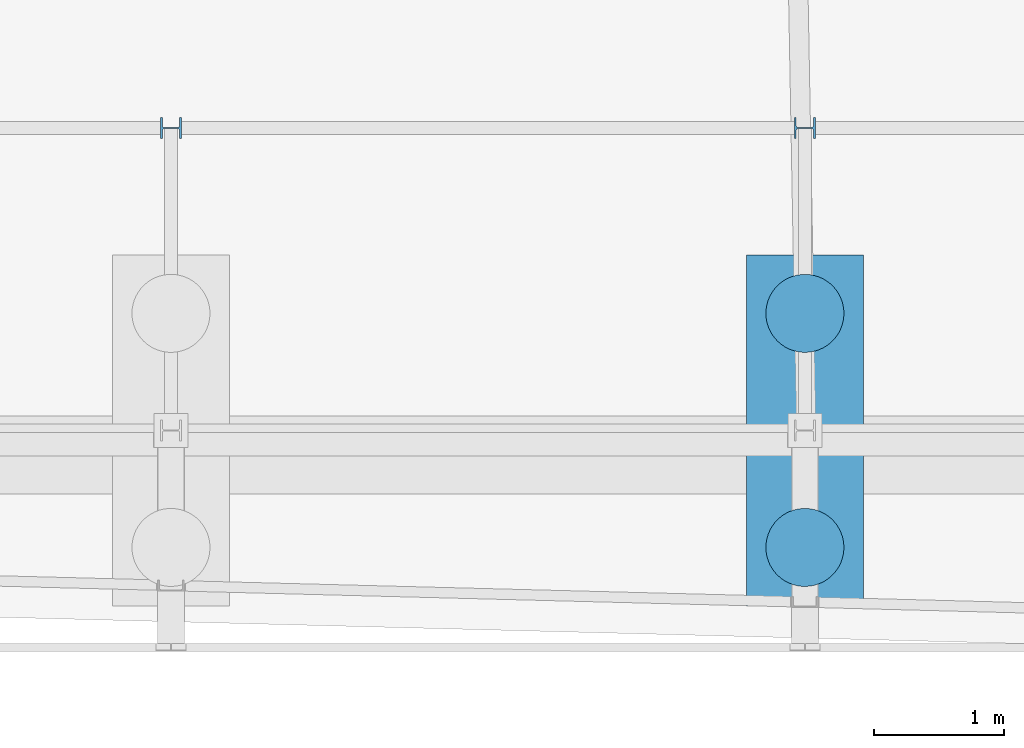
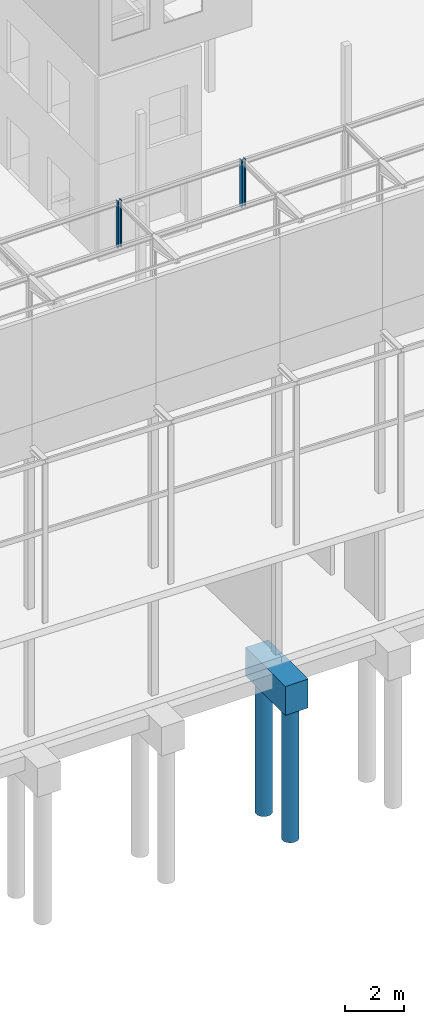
# One storey, part 14 of 82: 5 columns.
"""IFC2X3 building model written with IfcOpenShell, lengths in millimetres."""

import ifcopenshell
import ifcopenshell.guid

model = None  # the IFC model being written
_history = None  # IfcOwnerHistory: only IFC2X3 demands one
_inside = {}  # id of a spatial element -> (the spatial element, [elements in it])
_under = {}  # id of a project, library or spatial element -> (it, [spatial elements below it])
_declared = {}  # id of a project -> (the project, [libraries it declares])
_typed = {}  # id of a type object -> (the type object, [elements of that type])
_made_of = {}  # id of a material, layer set ... -> (it, [elements and type objects made of it])


def new_model(schema):
    """Start an empty IFC model of exactly this schema.

    Asked for "IFC4X3", IfcOpenShell would pick the latest addendum, in which some entities
    have other attributes; the version numbers below select the first issue.
    IFC2X3 requires an IfcOwnerHistory on every rooted entity: one is made here for all.
    """
    global model, _history
    if schema == "IFC4X3":
        model = ifcopenshell.file(schema_version=(4, 3, 0, 0))
    else:
        model = ifcopenshell.file(schema=schema)
    _inside.clear()
    _under.clear()
    _declared.clear()
    _typed.clear()
    _made_of.clear()
    _history = None
    if model.schema == "IFC2X3":
        org = make("IfcOrganization", Name="unknown")
        user = make(
            "IfcPersonAndOrganization",
            ThePerson=make("IfcPerson", FamilyName="unknown"),
            TheOrganization=org,
        )
        app = make(
            "IfcApplication",
            ApplicationDeveloper=org,
            Version="unknown",
            ApplicationFullName="unknown",
            ApplicationIdentifier="unknown",
        )
        _history = make(
            "IfcOwnerHistory",
            OwningUser=user,
            OwningApplication=app,
            ChangeAction="ADDED",
            CreationDate=0,
        )
    return model


def make(cls, **values):
    """One entity of the class cls with the attributes given. An attribute that is None is left unset."""
    return model.create_entity(
        cls, **{name: value for name, value in values.items() if value is not None}
    )


def rooted(cls, **values):
    """An entity with a GlobalId (a new one), such as an element, a storey or a relation."""
    return make(cls, GlobalId=ifcopenshell.guid.new(), OwnerHistory=_history, **values)


def si_unit(unit_type, name, prefix=None):
    """IfcSIUnit, for example si_unit("LENGTHUNIT", "METRE", prefix="MILLI")."""
    return make("IfcSIUnit", UnitType=unit_type, Prefix=prefix, Name=name)


def assignment(units):
    """IfcUnitAssignment: the units of a project."""
    return None if units is None else make("IfcUnitAssignment", Units=units)


def point(xyz):
    """IfcCartesianPoint."""
    return None if xyz is None else make("IfcCartesianPoint", Coordinates=xyz)


def direction(xyz):
    """IfcDirection."""
    return None if xyz is None else make("IfcDirection", DirectionRatios=xyz)


def frame(location, z_axis=None, x_axis=None):
    """IfcAxis2Placement3D, a coordinate frame: its origin and axes. An axis left out is left unset."""
    return make(
        "IfcAxis2Placement3D",
        Location=point(location),
        Axis=direction(z_axis),
        RefDirection=direction(x_axis),
    )


def frame_2d(location, x_axis=None):
    """IfcAxis2Placement2D, a coordinate frame in the plane: its origin and x axis."""
    return make(
        "IfcAxis2Placement2D", Location=point(location), RefDirection=direction(x_axis)
    )


def origin_with_axes():
    """The frame at (0, 0, 0) with the z axis (0, 0, 1) and the x axis (1, 0, 0) written out."""
    return frame((0.0, 0.0, 0.0), z_axis=(0.0, 0.0, 1.0), x_axis=(1.0, 0.0, 0.0))


def place(relative_to, where):
    """IfcLocalPlacement: puts the frame where relative to a parent placement (None: the world)."""
    return make(
        "IfcLocalPlacement", PlacementRelTo=relative_to, RelativePlacement=where
    )


def context(
    kind, dimensions, precision=None, world=None, true_north=None, identifier=None
):
    """IfcGeometricRepresentationContext, for example the 3D "Model" context."""
    return make(
        "IfcGeometricRepresentationContext",
        ContextIdentifier=identifier,
        ContextType=kind,
        CoordinateSpaceDimension=dimensions,
        Precision=precision,
        WorldCoordinateSystem=world,
        TrueNorth=true_north,
    )


def subcontext(parent, identifier, kind, view, scale=None):
    """IfcGeometricRepresentationSubContext, for example "Body" below "Model"."""
    return make(
        "IfcGeometricRepresentationSubContext",
        ContextIdentifier=identifier,
        ContextType=kind,
        ParentContext=parent,
        TargetScale=scale,
        TargetView=view,
    )


def project(units=None, contexts=None):
    """IfcProject with its units and contexts."""
    return rooted(
        "IfcProject",
        Name="project",
        RepresentationContexts=contexts,
        UnitsInContext=assignment(units),
    )


def spatial(cls, under=None, at=None, **own):
    """A site, building, storey or space (cls), placed at a placement, below another one or the project."""
    s = rooted(cls, ObjectPlacement=at, **own)
    if under is not None:
        _under.setdefault(under.id(), (under, []))[1].append(s)
    return s


def profile(cls, at=None, kind="AREA", **sizes):
    """A parametric profile (cls). Its sizes go by their IFC names, for example OverallWidth=200.0."""
    return make(cls, ProfileType=kind, Position=at, **sizes)


def rectangle(**sizes):
    """IfcRectangleProfileDef."""
    return profile("IfcRectangleProfileDef", **sizes)


def circle(**sizes):
    """IfcCircleProfileDef."""
    return profile("IfcCircleProfileDef", **sizes)


def i_section(**sizes):
    """IfcIShapeProfileDef."""
    return profile("IfcIShapeProfileDef", **sizes)


def extrude(swept, where, along, depth):
    """IfcExtrudedAreaSolid: the profile swept, set in the frame where, extruded along a direction by depth."""
    return make(
        "IfcExtrudedAreaSolid",
        SweptArea=swept,
        Position=where,
        ExtrudedDirection=direction(along),
        Depth=depth,
    )


def shape(context_of_items, identifier, shape_type, items):
    """IfcShapeRepresentation: the items that make up one representation, for example the "Body"."""
    return make(
        "IfcShapeRepresentation",
        ContextOfItems=context_of_items,
        RepresentationIdentifier=identifier,
        RepresentationType=shape_type,
        Items=items,
    )


def material(Name=None, Category=None):
    """IfcMaterial."""
    return make("IfcMaterial", Name=Name, Category=Category)


def made_of(thing, what):
    """Note that an element or type object is made of a material, layer set ...; save() writes the relation."""
    if what is not None:
        _made_of.setdefault(what.id(), (what, []))[1].append(thing)
    return thing


def type_object(cls, material=None, **own):
    """A type object (cls), such as IfcWallType, which elements share."""
    return made_of(rooted(cls, **own), material)


def element(
    cls,
    number,
    at=None,
    inside=None,
    cuts=None,
    type_object=None,
    material=None,
    context=None,
    identifier="Body",
    shape_type=None,
    held_by="IfcProductDefinitionShape",
    body=None,
    shapes=None,
    **own,
):
    """One element of the class cls, such as IfcWall. Its Tag is "e" and its number.

    at: its placement. inside: the storey or other place that contains it. cuts: it is an
    opening in that element (IfcRelVoidsElement). A single representation is given by context,
    identifier, shape_type and body (its items); several are given by shapes. held_by: the class
    of the entity that holds the representations. save() writes the other relations.
    """
    e = rooted(cls, Tag="e%d" % number, ObjectPlacement=at, **own)
    if body is not None:
        shapes = [shape(context, identifier, shape_type, body)]
    if shapes is not None:
        e.Representation = make(held_by, Representations=shapes)
    if inside is not None:
        _inside.setdefault(inside.id(), (inside, []))[1].append(e)
    if cuts is not None:
        rooted(
            "IfcRelVoidsElement", RelatingBuildingElement=cuts, RelatedOpeningElement=e
        )
    if type_object is not None:
        _typed.setdefault(type_object.id(), (type_object, []))[1].append(e)
    return made_of(e, material)


def aggregate(whole, parts):
    """IfcRelAggregates: a whole, such as a stair, and the parts it consists of."""
    return rooted("IfcRelAggregates", RelatingObject=whole, RelatedObjects=parts)


def save(model, path):
    """Write the relations noted so far, then the file.

    IfcRelAggregates (storeys below a building ...), IfcRelContainedInSpatialStructure (elements
    in a storey), IfcRelDefinesByType, IfcRelAssociatesMaterial and IfcRelDeclares: one each for
    every whole, place, type object, material and project.
    """
    for whole, parts in _under.values():
        aggregate(whole, parts)
    for where, things in _inside.values():
        rooted(
            "IfcRelContainedInSpatialStructure",
            RelatedElements=things,
            RelatingStructure=where,
        )
    for kind, things in _typed.values():
        rooted("IfcRelDefinesByType", RelatedObjects=things, RelatingType=kind)
    for what, things in _made_of.values():
        rooted("IfcRelAssociatesMaterial", RelatedObjects=things, RelatingMaterial=what)
    for by, libraries in _declared.values():
        rooted("IfcRelDeclares", RelatingContext=by, RelatedDefinitions=libraries)
    model.write(path)


model = new_model("IFC2X3")

# Units and contexts
model_context = context("Model", 3, precision=1e-05, world=origin_with_axes())
body_context = subcontext(model_context, "Body", "Model", "MODEL_VIEW")
ifc_project = project(units=[si_unit("LENGTHUNIT", "METRE", prefix="MILLI"), si_unit("AREAUNIT", "SQUARE_METRE"), si_unit("VOLUMEUNIT", "CUBIC_METRE"), si_unit("MASSUNIT", "GRAM", prefix="KILO"), si_unit("TIMEUNIT", "SECOND"), si_unit("PLANEANGLEUNIT", "RADIAN"), si_unit("SOLIDANGLEUNIT", "STERADIAN"), si_unit("THERMODYNAMICTEMPERATUREUNIT", "DEGREE_CELSIUS"), si_unit("LUMINOUSINTENSITYUNIT", "LUMEN")], contexts=[model_context])

# Site, building, storey
site_placement = place(None, origin_with_axes())
site = spatial("IfcSite", under=ifc_project, at=site_placement, Name="Undefined", CompositionType="ELEMENT")
building_placement = place(site_placement, origin_with_axes())
building = spatial("IfcBuilding", under=site, at=building_placement, Name="Undefined", CompositionType="ELEMENT")
storey_placement = place(building_placement, origin_with_axes())
storey = spatial("IfcBuildingStorey", under=building, at=storey_placement, Name="Undefined", CompositionType="ELEMENT", Elevation=0.0)

# Columns
ifc_material_1 = material(Name="STEEL/S275JR")
column_type_1 = type_object("IfcColumnType", Name="HEB160", PredefinedType="NOTDEFINED")
for number, where, z_axis, x_axis, name in (
    (1, (29250.0000011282, 2324.99999964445, 17160.0), (0.0, 0.0, 1.0), (1.0, 0.0, 0.0), "POTEAU"),
    (2, (24375.000001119, 2324.99999965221, 17160.0), (0.0, 0.0, 1.0), (1.0, 0.0, 0.0), "POTEAU"),
):
    element("IfcColumn", number, at=place(storey_placement, frame(where, z_axis=z_axis, x_axis=x_axis)), inside=storey, type_object=column_type_1, material=ifc_material_1, Name=name, ObjectType="HEB160", context=body_context, shape_type="SweptSolid", body=[
        extrude(i_section(OverallWidth=160.0, OverallDepth=160.0, WebThickness=8.0, FlangeThickness=13.0, FilletRadius=15.0, at=frame_2d((5.17284206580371e-08, 4.49290382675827e-10), x_axis=(1.0, 0.0))), frame((0.0, 0.0, 1965.0), z_axis=(0.0, -6.50000002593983e-08, -0.999999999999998), x_axis=(-2.77555756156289e-17, -1.0, 0.0)), (0.0, 0.0, 1.0), 1965.0),
    ])
ifc_material_2 = material(Name="CONCRETE/C30/37")
column_type_2 = type_object("IfcColumnType", Name="2700*900", PredefinedType="NOTDEFINED")
column_placement = place(storey_placement, frame((29250.0000000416, -1.16863901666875e-07, -1650.0), z_axis=(0.0, 0.0, 1.0), x_axis=(1.0, 0.0, 0.0)))
element("IfcColumn", 3, at=column_placement, inside=storey, type_object=column_type_2, material=ifc_material_2, Name="SEMELLE", ObjectType="2700*900", context=body_context, shape_type="SweptSolid", body=[
    extrude(rectangle(XDim=900.0, YDim=2700.0, at=frame_2d((5.17284206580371e-08, 4.49290382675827e-10), x_axis=(1.0, 0.0))), frame((0.0, 0.0, 1200.0), z_axis=(0.0, -6.50000002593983e-08, -0.999999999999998), x_axis=(-1.0, 0.0, 0.0)), (0.0, 0.0, 1.0), 1200.0),
])
ifc_material_3 = material(Name="CONCRETE/C25/30")
column_type_3 = type_object("IfcColumnType", Name="D600", PredefinedType="NOTDEFINED")
for number, where, z_axis, x_axis in (
    (4, (29250.0000000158, -900.000000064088, -7175.0), (0.0, 0.0, 1.0), (1.0, 0.0, 0.0)),
    (5, (29250.0000000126, 899.999999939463, -7175.0), (0.0, 0.0, 1.0), (1.0, 0.0, 0.0)),
):
    element("IfcColumn", number, at=place(storey_placement, frame(where, z_axis=z_axis, x_axis=x_axis)), inside=storey, type_object=column_type_3, material=ifc_material_3, Name="PIEU", ObjectType="D600", context=body_context, shape_type="SweptSolid", body=[
        extrude(circle(Radius=300.0, at=frame_2d((5.17284206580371e-08, 4.49290382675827e-10), x_axis=(1.0, 0.0))), frame((0.0, 0.0, 5750.0), z_axis=(0.0, -6.50000002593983e-08, -0.999999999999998), x_axis=(-1.0, 0.0, 0.0)), (0.0, 0.0, 1.0), 5750.0),
    ])

save(model, "model.ifc")
